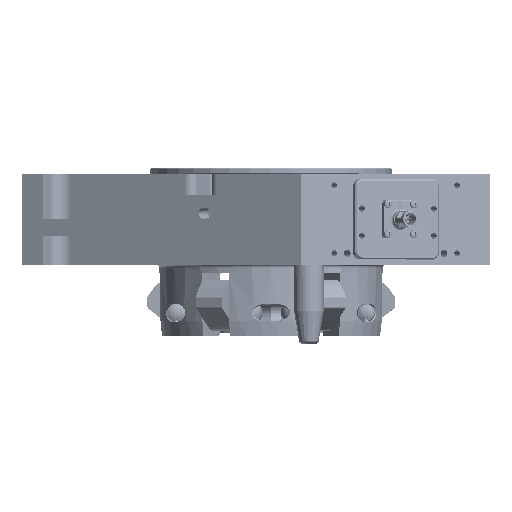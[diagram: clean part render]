
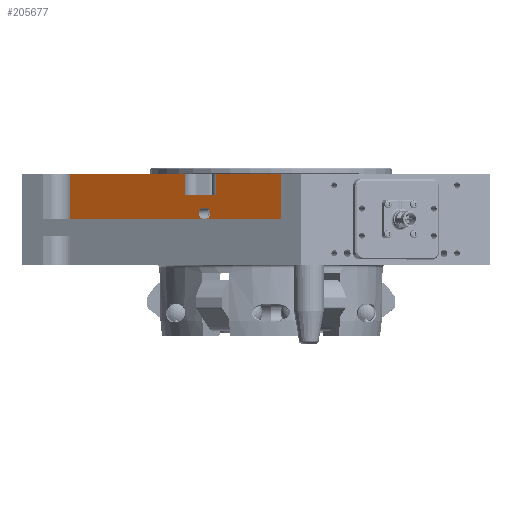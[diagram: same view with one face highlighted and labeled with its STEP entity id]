
A CAD part, top view. The second image highlights one B-rep face of the part: STEP entity #205677.
In plain terms, the highlighted planar face has unit normal (-0.5, 0, 0.866).
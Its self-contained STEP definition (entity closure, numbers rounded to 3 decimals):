
#2597 = DIRECTION ( 'NONE',  ( 0.866, 0., 0.5 ) ) ;
#3319 = CARTESIAN_POINT ( 'NONE',  ( -43.246, 0.5, 119.37 ) ) ;
#4886 = CARTESIAN_POINT ( 'NONE',  ( -44.978, 4., 118.37 ) ) ;
#8478 = PLANE ( 'NONE',  #57973 ) ;
#8506 = ORIENTED_EDGE ( 'NONE', *, *, #191120, .T. ) ;
#8796 = LINE ( 'NONE', #186907, #194454 ) ;
#9605 = FACE_BOUND ( 'NONE', #145133, .T. ) ;
#11667 = EDGE_CURVE ( 'NONE', #182003, #131348, #52369, .T. ) ;
#12752 = ORIENTED_EDGE ( 'NONE', *, *, #78705, .T. ) ;
#13353 = EDGE_CURVE ( 'NONE', #165918, #171866, #162083, .T. ) ;
#13692 = EDGE_CURVE ( 'NONE', #149779, #171866, #76114, .T. ) ;
#18477 = VERTEX_POINT ( 'NONE', #3319 ) ;
#20902 = CARTESIAN_POINT ( 'NONE',  ( -57.102, 30., 111.37 ) ) ;
#24134 = LINE ( 'NONE', #61675, #211152 ) ;
#29386 = ORIENTED_EDGE ( 'NONE', *, *, #13692, .T. ) ;
#31537 = ORIENTED_EDGE ( 'NONE', *, *, #60645, .F. ) ;
#34185 = LINE ( 'NONE', #143206, #85823 ) ;
#34286 = DIRECTION ( 'NONE',  ( 0., 1., 0. ) ) ;
#36923 = VECTOR ( 'NONE', #34286, 1000. ) ;
#38840 = CARTESIAN_POINT ( 'NONE',  ( -43.246, 4., 119.37 ) ) ;
#48184 = LINE ( 'NONE', #140777, #174020 ) ;
#49043 = VERTEX_POINT ( 'NONE', #127227 ) ;
#50060 = CARTESIAN_POINT ( 'NONE',  ( -44.978, 0.5, 118.37 ) ) ;
#50251 = EDGE_LOOP ( 'NONE', ( #183345, #31537, #8506, #29386, #207183, #88292, #69814, #12752 ) ) ;
#52369 = CIRCLE ( 'NONE', #183365, 3.5 ) ;
#55507 = VECTOR ( 'NONE', #57797, 1000. ) ;
#56675 = CARTESIAN_POINT ( 'NONE',  ( -133.081, 0., 67.503 ) ) ;
#57797 = DIRECTION ( 'NONE',  ( 0.866, 0., 0.5 ) ) ;
#57973 = AXIS2_PLACEMENT_3D ( 'NONE', #131620, #203053, #76498 ) ;
#60645 = EDGE_CURVE ( 'NONE', #49043, #101871, #146888, .T. ) ;
#61247 = CARTESIAN_POINT ( 'NONE',  ( -41.514, 16., 120.37 ) ) ;
#61675 = CARTESIAN_POINT ( 'NONE',  ( -133.081, 30., 67.503 ) ) ;
#61695 = EDGE_CURVE ( 'NONE', #161943, #182003, #34185, .T. ) ;
#62001 = DIRECTION ( 'NONE',  ( -0.866, 0., -0.5 ) ) ;
#64163 = CARTESIAN_POINT ( 'NONE',  ( 8.081, 0., 149.003 ) ) ;
#69814 = ORIENTED_EDGE ( 'NONE', *, *, #109999, .T. ) ;
#71556 = CARTESIAN_POINT ( 'NONE',  ( -44.978, 0.5, 118.37 ) ) ;
#74246 = DIRECTION ( 'NONE',  ( -0.866, 0., -0.5 ) ) ;
#74291 = VECTOR ( 'NONE', #62001, 1000. ) ;
#74588 = CIRCLE ( 'NONE', #108241, 3.5 ) ;
#76114 = LINE ( 'NONE', #217966, #74291 ) ;
#76498 = DIRECTION ( 'NONE',  ( -0.866, 0., -0.5 ) ) ;
#77472 = DIRECTION ( 'NONE',  ( -0.5, 0., 0.866 ) ) ;
#78705 = EDGE_CURVE ( 'NONE', #231424, #189441, #24134, .T. ) ;
#79573 = CARTESIAN_POINT ( 'NONE',  ( -36.317, 30., 123.37 ) ) ;
#83894 = CARTESIAN_POINT ( 'NONE',  ( -44.978, 7.5, 118.37 ) ) ;
#85823 = VECTOR ( 'NONE', #229964, 1000. ) ;
#88022 = DIRECTION ( 'NONE',  ( 0., 1., 0. ) ) ;
#88292 = ORIENTED_EDGE ( 'NONE', *, *, #113440, .F. ) ;
#101871 = VERTEX_POINT ( 'NONE', #164565 ) ;
#104392 = CARTESIAN_POINT ( 'NONE',  ( -133.081, 30., 67.503 ) ) ;
#106716 = DIRECTION ( 'NONE',  ( 0.866, 0., 0.5 ) ) ;
#107377 = CARTESIAN_POINT ( 'NONE',  ( 8.081, 30., 149.003 ) ) ;
#108241 = AXIS2_PLACEMENT_3D ( 'NONE', #38840, #77472, #132611 ) ;
#109999 = EDGE_CURVE ( 'NONE', #178816, #231424, #8796, .T. ) ;
#113440 = EDGE_CURVE ( 'NONE', #178816, #165918, #144622, .T. ) ;
#114284 = ORIENTED_EDGE ( 'NONE', *, *, #117267, .F. ) ;
#116217 = LINE ( 'NONE', #71556, #137826 ) ;
#116670 = DIRECTION ( 'NONE',  ( 0., 1., 0. ) ) ;
#117267 = EDGE_CURVE ( 'NONE', #131348, #18477, #116217, .T. ) ;
#123374 = VECTOR ( 'NONE', #193849, 1000. ) ;
#127227 = CARTESIAN_POINT ( 'NONE',  ( -57.102, 16., 111.37 ) ) ;
#131348 = VERTEX_POINT ( 'NONE', #50060 ) ;
#131620 = CARTESIAN_POINT ( 'NONE',  ( -133.081, 0., 67.503 ) ) ;
#132611 = DIRECTION ( 'NONE',  ( 0.866, 0., 0.5 ) ) ;
#133861 = CARTESIAN_POINT ( 'NONE',  ( -133.081, 0., 67.503 ) ) ;
#137826 = VECTOR ( 'NONE', #106716, 1000. ) ;
#140777 = CARTESIAN_POINT ( 'NONE',  ( -57.102, 0., 111.37 ) ) ;
#143206 = CARTESIAN_POINT ( 'NONE',  ( -44.978, 7.5, 118.37 ) ) ;
#144622 = LINE ( 'NONE', #56675, #189483 ) ;
#145133 = EDGE_LOOP ( 'NONE', ( #195707, #114284, #202914, #189095 ) ) ;
#146888 = LINE ( 'NONE', #61247, #55507 ) ;
#149779 = VERTEX_POINT ( 'NONE', #20902 ) ;
#160838 = EDGE_CURVE ( 'NONE', #189441, #101871, #173999, .T. ) ;
#161943 = VERTEX_POINT ( 'NONE', #211242 ) ;
#162083 = LINE ( 'NONE', #194864, #36923 ) ;
#164565 = CARTESIAN_POINT ( 'NONE',  ( -36.317, 16., 123.37 ) ) ;
#165918 = VERTEX_POINT ( 'NONE', #133861 ) ;
#171866 = VERTEX_POINT ( 'NONE', #104392 ) ;
#173999 = LINE ( 'NONE', #191575, #123374 ) ;
#174020 = VECTOR ( 'NONE', #88022, 1000. ) ;
#178816 = VERTEX_POINT ( 'NONE', #64163 ) ;
#182003 = VERTEX_POINT ( 'NONE', #83894 ) ;
#183345 = ORIENTED_EDGE ( 'NONE', *, *, #160838, .T. ) ;
#183365 = AXIS2_PLACEMENT_3D ( 'NONE', #4886, #201758, #2597 ) ;
#186907 = CARTESIAN_POINT ( 'NONE',  ( 8.081, 0., 149.003 ) ) ;
#188935 = FACE_OUTER_BOUND ( 'NONE', #50251, .T. ) ;
#189095 = ORIENTED_EDGE ( 'NONE', *, *, #61695, .F. ) ;
#189441 = VERTEX_POINT ( 'NONE', #79573 ) ;
#189483 = VECTOR ( 'NONE', #74246, 1000. ) ;
#191120 = EDGE_CURVE ( 'NONE', #49043, #149779, #48184, .T. ) ;
#191575 = CARTESIAN_POINT ( 'NONE',  ( -36.317, 0., 123.37 ) ) ;
#193849 = DIRECTION ( 'NONE',  ( 0., -1., 0. ) ) ;
#194454 = VECTOR ( 'NONE', #116670, 1000. ) ;
#194864 = CARTESIAN_POINT ( 'NONE',  ( -133.081, 0., 67.503 ) ) ;
#195707 = ORIENTED_EDGE ( 'NONE', *, *, #209634, .F. ) ;
#201758 = DIRECTION ( 'NONE',  ( -0.5, 0., 0.866 ) ) ;
#202914 = ORIENTED_EDGE ( 'NONE', *, *, #11667, .F. ) ;
#203053 = DIRECTION ( 'NONE',  ( 0.5, 0., -0.866 ) ) ;
#205677 = ADVANCED_FACE ( 'NONE', ( #9605, #188935 ), #8478, .F. ) ;
#205790 = DIRECTION ( 'NONE',  ( -0.866, 0., -0.5 ) ) ;
#207183 = ORIENTED_EDGE ( 'NONE', *, *, #13353, .F. ) ;
#209634 = EDGE_CURVE ( 'NONE', #18477, #161943, #74588, .T. ) ;
#211152 = VECTOR ( 'NONE', #205790, 1000. ) ;
#211242 = CARTESIAN_POINT ( 'NONE',  ( -43.246, 7.5, 119.37 ) ) ;
#217966 = CARTESIAN_POINT ( 'NONE',  ( -133.081, 30., 67.503 ) ) ;
#229964 = DIRECTION ( 'NONE',  ( -0.866, 0., -0.5 ) ) ;
#231424 = VERTEX_POINT ( 'NONE', #107377 ) ;
